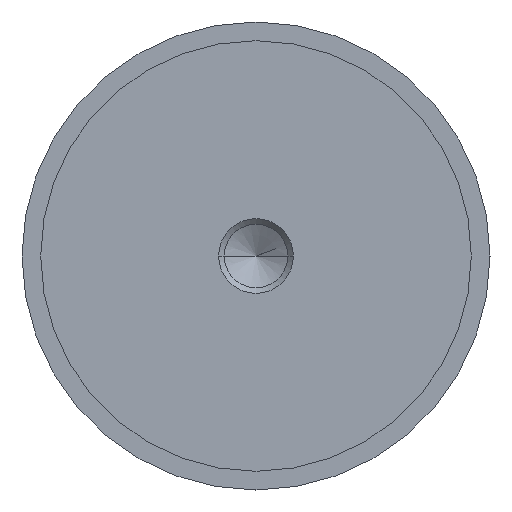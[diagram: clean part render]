
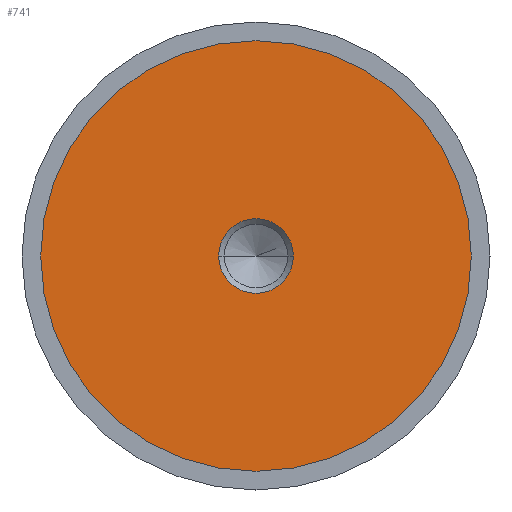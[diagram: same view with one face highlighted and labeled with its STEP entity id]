
A CAD part, left-side view. The second image highlights one B-rep face of the part: STEP entity #741.
In plain terms, the highlighted planar face has unit normal (-1, 0, 0).
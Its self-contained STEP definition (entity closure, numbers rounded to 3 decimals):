
#13 = CARTESIAN_POINT ( 'NONE',  ( -14.99, 0., -34.5 ) ) ;
#18 = AXIS2_PLACEMENT_3D ( 'NONE', #87, #641, #362 ) ;
#38 = DIRECTION ( 'NONE',  ( 0., 0., -1. ) ) ;
#45 = DIRECTION ( 'NONE',  ( 1., 0., 0. ) ) ;
#48 = CARTESIAN_POINT ( 'NONE',  ( -14.99, 0., 0. ) ) ;
#76 = DIRECTION ( 'NONE',  ( 0., 0., 1. ) ) ;
#85 = VERTEX_POINT ( 'NONE', #772 ) ;
#87 = CARTESIAN_POINT ( 'NONE',  ( -14.99, 34.5, 0. ) ) ;
#111 = EDGE_CURVE ( 'NONE', #478, #85, #705, .T. ) ;
#152 = EDGE_CURVE ( 'NONE', #85, #478, #306, .T. ) ;
#227 = AXIS2_PLACEMENT_3D ( 'NONE', #48, #521, #38 ) ;
#274 = CARTESIAN_POINT ( 'NONE',  ( -14.99, 0., 0. ) ) ;
#300 = AXIS2_PLACEMENT_3D ( 'NONE', #589, #45, #461 ) ;
#306 = CIRCLE ( 'NONE', #227, 5.99 ) ;
#351 = AXIS2_PLACEMENT_3D ( 'NONE', #274, #419, #566 ) ;
#360 = ORIENTED_EDGE ( 'NONE', *, *, #152, .T. ) ;
#362 = DIRECTION ( 'NONE',  ( 0., 0., -1. ) ) ;
#419 = DIRECTION ( 'NONE',  ( -1., 0., 0. ) ) ;
#449 = VERTEX_POINT ( 'NONE', #13 ) ;
#461 = DIRECTION ( 'NONE',  ( 0., 0., -1. ) ) ;
#462 = EDGE_CURVE ( 'NONE', #622, #449, #750, .T. ) ;
#469 = EDGE_CURVE ( 'NONE', #449, #622, #803, .T. ) ;
#478 = VERTEX_POINT ( 'NONE', #495 ) ;
#482 = EDGE_LOOP ( 'NONE', ( #360, #779 ) ) ;
#495 = CARTESIAN_POINT ( 'NONE',  ( -14.99, 5.99, 0. ) ) ;
#521 = DIRECTION ( 'NONE',  ( 1., 0., 0. ) ) ;
#542 = AXIS2_PLACEMENT_3D ( 'NONE', #554, #702, #76 ) ;
#554 = CARTESIAN_POINT ( 'NONE',  ( -14.99, 0., 0. ) ) ;
#566 = DIRECTION ( 'NONE',  ( 0., 0., 1. ) ) ;
#569 = FACE_BOUND ( 'NONE', #482, .T. ) ;
#574 = EDGE_LOOP ( 'NONE', ( #590, #640 ) ) ;
#589 = CARTESIAN_POINT ( 'NONE',  ( -14.99, 0., 0. ) ) ;
#590 = ORIENTED_EDGE ( 'NONE', *, *, #462, .T. ) ;
#622 = VERTEX_POINT ( 'NONE', #706 ) ;
#637 = PLANE ( 'NONE',  #18 ) ;
#640 = ORIENTED_EDGE ( 'NONE', *, *, #469, .T. ) ;
#641 = DIRECTION ( 'NONE',  ( 1., 0., 0. ) ) ;
#702 = DIRECTION ( 'NONE',  ( -1., 0., 0. ) ) ;
#705 = CIRCLE ( 'NONE', #300, 5.99 ) ;
#706 = CARTESIAN_POINT ( 'NONE',  ( -14.99, 0., 34.5 ) ) ;
#741 = ADVANCED_FACE ( 'NONE', ( #569, #842 ), #637, .F. ) ;
#750 = CIRCLE ( 'NONE', #351, 34.5 ) ;
#772 = CARTESIAN_POINT ( 'NONE',  ( -14.99, -5.99, 0. ) ) ;
#779 = ORIENTED_EDGE ( 'NONE', *, *, #111, .T. ) ;
#803 = CIRCLE ( 'NONE', #542, 34.5 ) ;
#842 = FACE_OUTER_BOUND ( 'NONE', #574, .T. ) ;
